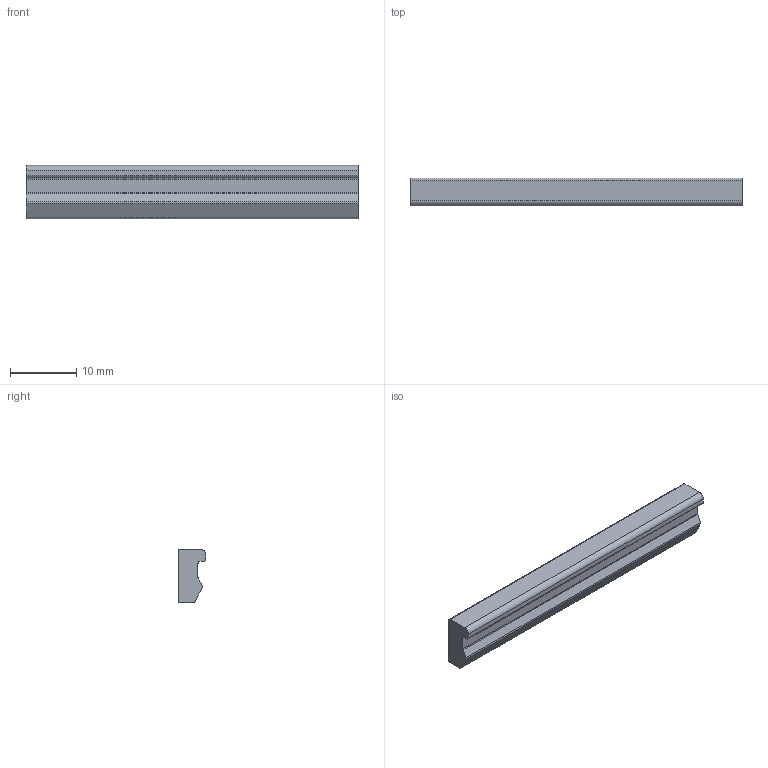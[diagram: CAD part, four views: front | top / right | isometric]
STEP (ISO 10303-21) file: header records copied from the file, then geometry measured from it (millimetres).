
FILE_DESCRIPTION(('STEP AP214'),'1');
FILE_NAME('R02B-.stp','2017-07-25T06:54:44',(' '),(' '),'Spatial InterOp 3D',' ',' ');
FILE_SCHEMA(('automotive_design'));
Length unit declared in the file: millimetre
Products named in the file (1): R02B-
Bounding box: 50 x 4.2 x 8 mm (x, y, z)
Volume: 1335.3 mm3; surface area: 1224.8 mm2
Topology: 1 solids, 1 shells, 18 faces, 48 edges, 32 vertices
Faces by surface type: plane 10, cylinder 8
Entity records: 728 total; most frequent: DIRECTION 102, CARTESIAN_POINT 99, ORIENTED_EDGE 96, EDGE_CURVE 48, AXIS2_PLACEMENT_3D 35, VERTEX_POINT 32, LINE 32, VECTOR 32
